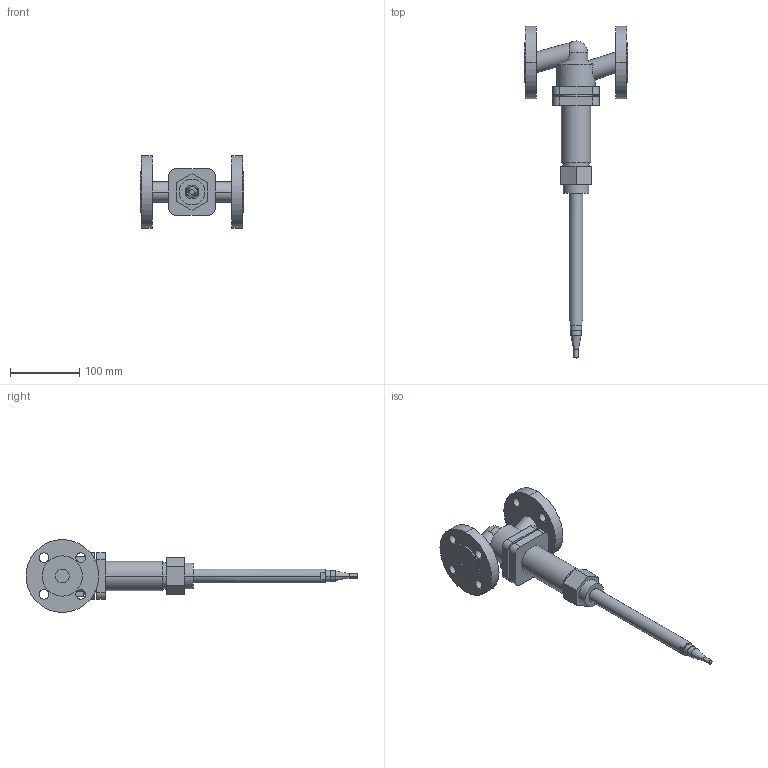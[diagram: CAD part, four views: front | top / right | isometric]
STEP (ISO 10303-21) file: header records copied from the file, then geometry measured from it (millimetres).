
FILE_DESCRIPTION( ( '' ), '1' );
FILE_NAME( 'F:/DE-SHS/TB/OR/04-Sonstiges/daten/files_3d/771-PN40/c000005284.stp', '2014-02-06T06:49:20', ( '' ), ( '' ), ' ', ' ', ' ' );
FILE_SCHEMA( ( 'CONFIG_CONTROL_DESIGN' ) );
Length unit declared in the file: millimetre
Products named in the file (1): 1
Bounding box: 150 x 478.94 x 105 mm (x, y, z)
Volume: 779952.2 mm3; surface area: 114329.5 mm2
Topology: 1 solids, 1 shells, 117 faces, 286 edges, 188 vertices
Faces by surface type: cylinder 60, plane 52, cone 4, sphere 1
Entity records: 3851 total; most frequent: CARTESIAN_POINT 922, DIRECTION 631, ORIENTED_EDGE 568, EDGE_CURVE 284, AXIS2_PLACEMENT_3D 243, VERTEX_POINT 188, EDGE_LOOP 152, LINE 145
